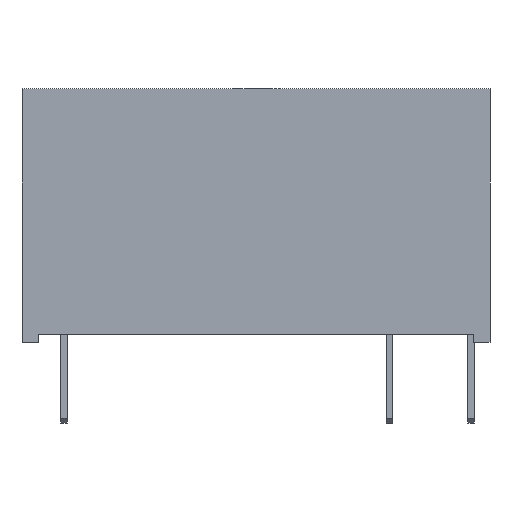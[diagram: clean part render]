
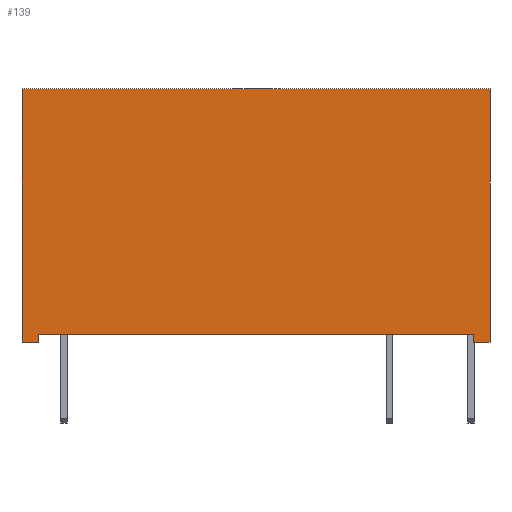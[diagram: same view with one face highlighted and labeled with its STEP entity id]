
A CAD part, front view. The second image highlights one B-rep face of the part: STEP entity #139.
In plain terms, the highlighted planar face has unit normal (0, -1, 0).
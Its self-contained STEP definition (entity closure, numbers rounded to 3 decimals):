
#68=CARTESIAN_POINT('',(14.05,-6.5,0.6));
#69=DIRECTION('',(0.0,1.0,0.0));
#70=DIRECTION('',(0.0,0.0,-1.0));
#71=AXIS2_PLACEMENT_3D('',#68,#69,#70);
#72=PLANE('',#71);
#73=CARTESIAN_POINT('',(-14.6,-6.5,0.0));
#74=VERTEX_POINT('',#73);
#75=CARTESIAN_POINT('',(-13.6,-6.5,0.0));
#76=VERTEX_POINT('',#75);
#77=CARTESIAN_POINT('',(-13.6,-6.5,0.0));
#78=DIRECTION('',(-1.0,0.0,0.0));
#79=VECTOR('',#78,1.);
#80=LINE('',#77,#79);
#81=EDGE_CURVE('',#74,#76,#80,.F.);
#82=ORIENTED_EDGE('',*,*,#81,.T.);
#83=CARTESIAN_POINT('',(-13.6,-6.5,0.5));
#84=VERTEX_POINT('',#83);
#85=CARTESIAN_POINT('',(-13.6,-6.5,0.5));
#86=DIRECTION('',(0.0,0.0,-1.0));
#87=VECTOR('',#86,0.5);
#88=LINE('',#85,#87);
#89=EDGE_CURVE('',#76,#84,#88,.F.);
#90=ORIENTED_EDGE('',*,*,#89,.T.);
#91=CARTESIAN_POINT('',(13.6,-6.5,0.5));
#92=VERTEX_POINT('',#91);
#93=CARTESIAN_POINT('',(13.6,-6.5,0.5));
#94=DIRECTION('',(-1.0,0.0,0.0));
#95=VECTOR('',#94,27.2);
#96=LINE('',#93,#95);
#97=EDGE_CURVE('',#84,#92,#96,.F.);
#98=ORIENTED_EDGE('',*,*,#97,.T.);
#99=CARTESIAN_POINT('',(13.6,-6.5,0.0));
#100=VERTEX_POINT('',#99);
#101=CARTESIAN_POINT('',(13.6,-6.5,0.5));
#102=DIRECTION('',(0.0,0.0,-1.0));
#103=VECTOR('',#102,0.5);
#104=LINE('',#101,#103);
#105=EDGE_CURVE('',#92,#100,#104,.T.);
#106=ORIENTED_EDGE('',*,*,#105,.T.);
#107=CARTESIAN_POINT('',(14.6,-6.5,0.0));
#108=VERTEX_POINT('',#107);
#109=CARTESIAN_POINT('',(14.6,-6.5,0.0));
#110=DIRECTION('',(-1.0,0.0,0.0));
#111=VECTOR('',#110,1.);
#112=LINE('',#109,#111);
#113=EDGE_CURVE('',#100,#108,#112,.F.);
#114=ORIENTED_EDGE('',*,*,#113,.T.);
#115=CARTESIAN_POINT('',(14.6,-6.5,15.8));
#116=VERTEX_POINT('',#115);
#117=CARTESIAN_POINT('',(14.6,-6.5,0.0));
#118=DIRECTION('',(0.0,0.0,1.0));
#119=VECTOR('',#118,15.8);
#120=LINE('',#117,#119);
#121=EDGE_CURVE('',#108,#116,#120,.T.);
#122=ORIENTED_EDGE('',*,*,#121,.T.);
#123=CARTESIAN_POINT('',(-14.6,-6.5,15.8));
#124=VERTEX_POINT('',#123);
#125=CARTESIAN_POINT('',(-14.6,-6.5,15.8));
#126=DIRECTION('',(1.0,0.0,0.0));
#127=VECTOR('',#126,29.2);
#128=LINE('',#125,#127);
#129=EDGE_CURVE('',#124,#116,#128,.T.);
#130=ORIENTED_EDGE('',*,*,#129,.F.);
#131=CARTESIAN_POINT('',(-14.6,-6.5,0.0));
#132=DIRECTION('',(0.0,0.0,1.0));
#133=VECTOR('',#132,15.8);
#134=LINE('',#131,#133);
#135=EDGE_CURVE('',#74,#124,#134,.T.);
#136=ORIENTED_EDGE('',*,*,#135,.F.);
#137=EDGE_LOOP('',(#82,#90,#98,#106,#114,#122,#130,#136));
#138=FACE_OUTER_BOUND('',#137,.T.);
#139=ADVANCED_FACE('',(#138),#72,.F.);
